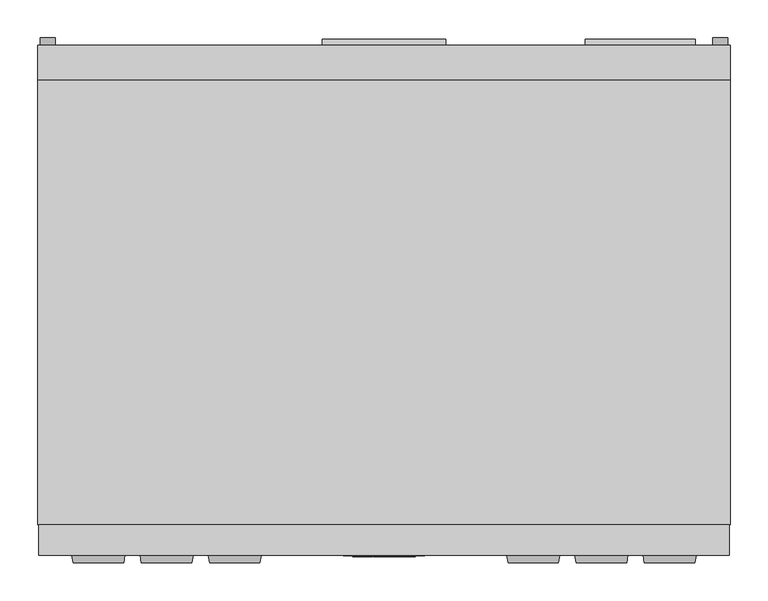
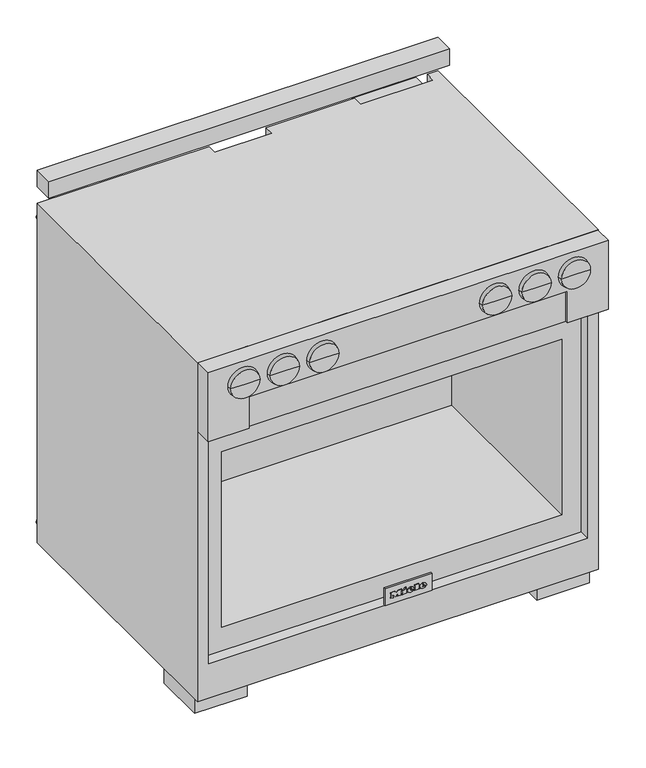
"""IFC4 building model written with IfcOpenShell, lengths in millimetres: proxy geometry, 11791570_USA_HR1934-3G_EDST-CLST : 25193481_USA_11791570_HR1934-3G_EDST-CLST."""

from ifc_helpers import new_model, si_unit, point, frame, frame_2d, origin, origin_with_axes, place, context, project, spatial, polyline, circle_curve, ellipse_curve, trimmed, segment, composite_curve, outline, extrude, faceted_brep, source, transform, mapped, element, save
from ifc_brep_helpers import plane_surface, cylinder_surface, revolved_surface, extruded_surface, advanced_brep


def specialty_equipment_75fcdb14(model_context):
    return source(origin(), model_context, "Body", "SolidModel", [
        faceted_brep([(456.0, -673.0, 862.0), (-456.0, -673.0, 862.0), (-456.0, -673.0, 695.0), (-363.0, -673.0, 695.0), (-363.0, -673.0, 772.0), (363.0, -673.0, 772.0), (363.0, -673.0, 695.0), (456.0, -673.0, 695.0), (456.0, -633.0, 862.0), (456.0, -633.0, 695.0), (-456.0, -633.0, 695.0), (-456.0, -633.0, 862.0), (363.0, -666.7, 695.0), (-363.0, -666.7, 695.0), (363.0, -666.7, 772.0), (-363.0, -666.7, 772.0)], [[[0, 1, 2, 3, 4, 5, 6, 7]], [[8, 9, 10, 11]], [[0, 7, 9, 8]], [[10, 9, 7, 6, 12, 13, 3, 2]], [[2, 1, 11, 10]], [[1, 0, 8, 11]], [[14, 15, 13, 12]], [[14, 12, 6, 5]], [[13, 15, 4, 3]], [[15, 14, 5, 4]]]),
        advanced_brep(
        [(-230.2367302, -683.0, 813.0), (-163.7632698, -683.0, 813.0), (-197.0, -683.0, 813.0), (-232.0, -673.0, 813.0), (-162.0, -673.0, 813.0), (-197.0, -673.0, 813.0)],
        [
            (0, 1, circle_curve(frame((-197.0, -683.0, 813.0), z_axis=(0.0, -1.0, 0.0), x_axis=(1.0, 0.0, 0.0)), 33.2367302)),
            (1, 2),
            (2, 0),
            (1, 0, circle_curve(frame((-197.0, -683.0, 813.0), z_axis=(0.0, -1.0, 0.0), x_axis=(1.0, 0.0, 0.0)), 33.2367302)),
            (3, 4, circle_curve(frame((-197.0, -673.0, 813.0), z_axis=(0.0, -1.0, 0.0), x_axis=(1.0, 0.0, 0.0)), 35.0)),
            (4, 1),
            (0, 3),
            (4, 3, circle_curve(frame((-197.0, -673.0, 813.0), z_axis=(0.0, -1.0, 0.0), x_axis=(1.0, 0.0, 0.0)), 35.0)),
            (5, 4),
            (3, 5),
        ],
        [
            plane_surface(frame((-197.0, -683.0, 813.0), z_axis=(0.0, -1.0, 0.0), x_axis=(1.0, 0.0, 0.0))),
            revolved_surface(polyline([(-163.7632698, -683.0, 813.0), (-162.0, -673.0, 813.0)]), (-197.0, 751.3738435, 813.0), (0.0, 1.0, 0.0)),
            plane_surface(frame((-197.0, -673.0, 813.0), z_axis=(0.0, 1.0, 0.0), x_axis=(1.0, 0.0, 0.0))),
        ],
        [
            (0, [[1, 2, 3]]),
            (0, [[4, -3, -2]]),
            (1, [[5, 6, -1, 7]]),
            (1, [[8, -7, -4, -6]]),
            (2, [[9, -5, 10]]),
            (2, [[-10, -8, -9]]),
        ],
    ),
        advanced_brep(
        [(-410.2367302, -683.0, 813.0), (-343.7632698, -683.0, 813.0), (-377.0, -683.0, 813.0), (-412.0, -673.0, 813.0), (-342.0, -673.0, 813.0), (-377.0, -673.0, 813.0)],
        [
            (0, 1, circle_curve(frame((-377.0, -683.0, 813.0), z_axis=(0.0, -1.0, 0.0), x_axis=(1.0, 0.0, 0.0)), 33.2367302)),
            (1, 2),
            (2, 0),
            (1, 0, circle_curve(frame((-377.0, -683.0, 813.0), z_axis=(0.0, -1.0, 0.0), x_axis=(1.0, 0.0, 0.0)), 33.2367302)),
            (3, 4, circle_curve(frame((-377.0, -673.0, 813.0), z_axis=(0.0, -1.0, 0.0), x_axis=(1.0, 0.0, 0.0)), 35.0)),
            (4, 1),
            (0, 3),
            (4, 3, circle_curve(frame((-377.0, -673.0, 813.0), z_axis=(0.0, -1.0, 0.0), x_axis=(1.0, 0.0, 0.0)), 35.0)),
            (5, 4),
            (3, 5),
        ],
        [
            plane_surface(frame((-377.0, -683.0, 813.0), z_axis=(0.0, -1.0, 0.0), x_axis=(1.0, 0.0, 0.0))),
            revolved_surface(polyline([(-343.7632698, -683.0, 813.0), (-342.0, -673.0, 813.0)]), (-377.0, 751.3738435, 813.0), (0.0, 1.0, 0.0)),
            plane_surface(frame((-377.0, -673.0, 813.0), z_axis=(0.0, 1.0, 0.0), x_axis=(1.0, 0.0, 0.0))),
        ],
        [
            (0, [[1, 2, 3]]),
            (0, [[4, -3, -2]]),
            (1, [[5, 6, -1, 7]]),
            (1, [[8, -7, -4, -6]]),
            (2, [[9, -5, 10]]),
            (2, [[-10, -8, -9]]),
        ],
    ),
        advanced_brep(
        [(-320.2367302, -683.0, 813.0), (-253.7632698, -683.0, 813.0), (-287.0, -683.0, 813.0), (-322.0, -673.0, 813.0), (-252.0, -673.0, 813.0), (-287.0, -673.0, 813.0)],
        [
            (0, 1, circle_curve(frame((-287.0, -683.0, 813.0), z_axis=(0.0, -1.0, 0.0), x_axis=(1.0, 0.0, 0.0)), 33.2367302)),
            (1, 2),
            (2, 0),
            (1, 0, circle_curve(frame((-287.0, -683.0, 813.0), z_axis=(0.0, -1.0, 0.0), x_axis=(1.0, 0.0, 0.0)), 33.2367302)),
            (3, 4, circle_curve(frame((-287.0, -673.0, 813.0), z_axis=(0.0, -1.0, 0.0), x_axis=(1.0, 0.0, 0.0)), 35.0)),
            (4, 1),
            (0, 3),
            (4, 3, circle_curve(frame((-287.0, -673.0, 813.0), z_axis=(0.0, -1.0, 0.0), x_axis=(1.0, 0.0, 0.0)), 35.0)),
            (5, 4),
            (3, 5),
        ],
        [
            plane_surface(frame((-287.0, -683.0, 813.0), z_axis=(0.0, -1.0, 0.0), x_axis=(1.0, 0.0, 0.0))),
            revolved_surface(polyline([(-253.7632698, -683.0, 813.0), (-252.0, -673.0, 813.0)]), (-287.0, 751.3738435, 813.0), (0.0, 1.0, 0.0)),
            plane_surface(frame((-287.0, -673.0, 813.0), z_axis=(0.0, 1.0, 0.0), x_axis=(1.0, 0.0, 0.0))),
        ],
        [
            (0, [[1, 2, 3]]),
            (0, [[4, -3, -2]]),
            (1, [[5, 6, -1, 7]]),
            (1, [[8, -7, -4, -6]]),
            (2, [[9, -5, 10]]),
            (2, [[-10, -8, -9]]),
        ],
    ),
        advanced_brep(
        [(163.7632698, -683.0, 813.0), (230.2367302, -683.0, 813.0), (197.0, -683.0, 813.0), (162.0, -673.0, 813.0), (232.0, -673.0, 813.0), (197.0, -673.0, 813.0)],
        [
            (0, 1, circle_curve(frame((197.0, -683.0, 813.0), z_axis=(0.0, -1.0, 0.0), x_axis=(1.0, 0.0, 0.0)), 33.2367302)),
            (1, 2),
            (2, 0),
            (1, 0, circle_curve(frame((197.0, -683.0, 813.0), z_axis=(0.0, -1.0, 0.0), x_axis=(1.0, 0.0, 0.0)), 33.2367302)),
            (3, 4, circle_curve(frame((197.0, -673.0, 813.0), z_axis=(0.0, -1.0, 0.0), x_axis=(1.0, 0.0, 0.0)), 35.0)),
            (4, 1),
            (0, 3),
            (4, 3, circle_curve(frame((197.0, -673.0, 813.0), z_axis=(0.0, -1.0, 0.0), x_axis=(1.0, 0.0, 0.0)), 35.0)),
            (5, 4),
            (3, 5),
        ],
        [
            plane_surface(frame((197.0, -683.0, 813.0), z_axis=(0.0, -1.0, 0.0), x_axis=(1.0, 0.0, 0.0))),
            revolved_surface(polyline([(230.2367302, -683.0, 813.0), (232.0, -673.0, 813.0)]), (197.0, 751.3738435, 813.0), (0.0, 1.0, 0.0)),
            plane_surface(frame((197.0, -673.0, 813.0), z_axis=(0.0, 1.0, 0.0), x_axis=(1.0, 0.0, 0.0))),
        ],
        [
            (0, [[1, 2, 3]]),
            (0, [[4, -3, -2]]),
            (1, [[5, 6, -1, 7]]),
            (1, [[8, -7, -4, -6]]),
            (2, [[9, -5, 10]]),
            (2, [[-10, -8, -9]]),
        ],
    ),
        advanced_brep(
        [(253.7632698, -683.0, 813.0), (320.2367302, -683.0, 813.0), (287.0, -683.0, 813.0), (252.0, -673.0, 813.0), (322.0, -673.0, 813.0), (287.0, -673.0, 813.0)],
        [
            (0, 1, circle_curve(frame((287.0, -683.0, 813.0), z_axis=(0.0, -1.0, 0.0), x_axis=(1.0, 0.0, 0.0)), 33.2367302)),
            (1, 2),
            (2, 0),
            (1, 0, circle_curve(frame((287.0, -683.0, 813.0), z_axis=(0.0, -1.0, 0.0), x_axis=(1.0, 0.0, 0.0)), 33.2367302)),
            (3, 4, circle_curve(frame((287.0, -673.0, 813.0), z_axis=(0.0, -1.0, 0.0), x_axis=(1.0, 0.0, 0.0)), 35.0)),
            (4, 1),
            (0, 3),
            (4, 3, circle_curve(frame((287.0, -673.0, 813.0), z_axis=(0.0, -1.0, 0.0), x_axis=(1.0, 0.0, 0.0)), 35.0)),
            (5, 4),
            (3, 5),
        ],
        [
            plane_surface(frame((287.0, -683.0, 813.0), z_axis=(0.0, -1.0, 0.0), x_axis=(1.0, 0.0, 0.0))),
            revolved_surface(polyline([(320.2367302, -683.0, 813.0), (322.0, -673.0, 813.0)]), (287.0, 751.3738435, 813.0), (0.0, 1.0, 0.0)),
            plane_surface(frame((287.0, -673.0, 813.0), z_axis=(0.0, 1.0, 0.0), x_axis=(1.0, 0.0, 0.0))),
        ],
        [
            (0, [[1, 2, 3]]),
            (0, [[4, -3, -2]]),
            (1, [[5, 6, -1, 7]]),
            (1, [[8, -7, -4, -6]]),
            (2, [[9, -5, 10]]),
            (2, [[-10, -8, -9]]),
        ],
    ),
        advanced_brep(
        [(343.7632698, -683.0, 813.0), (410.2367302, -683.0, 813.0), (377.0, -683.0, 813.0), (342.0, -673.0, 813.0), (412.0, -673.0, 813.0), (377.0, -673.0, 813.0)],
        [
            (0, 1, circle_curve(frame((377.0, -683.0, 813.0), z_axis=(0.0, -1.0, 0.0), x_axis=(1.0, 0.0, 0.0)), 33.2367302)),
            (1, 2),
            (2, 0),
            (1, 0, circle_curve(frame((377.0, -683.0, 813.0), z_axis=(0.0, -1.0, 0.0), x_axis=(1.0, 0.0, 0.0)), 33.2367302)),
            (3, 4, circle_curve(frame((377.0, -673.0, 813.0), z_axis=(0.0, -1.0, 0.0), x_axis=(1.0, 0.0, 0.0)), 35.0)),
            (4, 1),
            (0, 3),
            (4, 3, circle_curve(frame((377.0, -673.0, 813.0), z_axis=(0.0, -1.0, 0.0), x_axis=(1.0, 0.0, 0.0)), 35.0)),
            (5, 4),
            (3, 5),
        ],
        [
            plane_surface(frame((377.0, -683.0, 813.0), z_axis=(0.0, -1.0, 0.0), x_axis=(1.0, 0.0, 0.0))),
            revolved_surface(polyline([(410.2367302, -683.0, 813.0), (412.0, -673.0, 813.0)]), (377.0, 751.3738435, 813.0), (0.0, 1.0, 0.0)),
            plane_surface(frame((377.0, -673.0, 813.0), z_axis=(0.0, 1.0, 0.0), x_axis=(1.0, 0.0, 0.0))),
        ],
        [
            (0, [[1, 2, 3]]),
            (0, [[4, -3, -2]]),
            (1, [[5, 6, -1, 7]]),
            (1, [[8, -7, -4, -6]]),
            (2, [[9, -5, 10]]),
            (2, [[-10, -8, -9]]),
        ],
    ),
        extrude(outline(composite_curve([segment(trimmed(circle_curve(frame_2d((822.0, 444.0)), 10.0), [point((822.0, 454.0))], [point((822.0, 434.0))], False, "CARTESIAN"), True, "CONTINUOUS"), segment(trimmed(circle_curve(frame_2d((822.0, 444.0)), 10.0), [point((822.0, 434.0))], [point((822.0, 454.0))], False, "CARTESIAN"), True, "CONTINUOUS")], self_intersect=False)), frame((0.0, 0.0, 0.0), z_axis=(0.0, 1.0, 0.0), x_axis=(0.0, 0.0, 1.0)), (0.0, 0.0, 1.0), 10.0),
        extrude(outline(composite_curve([segment(trimmed(circle_curve(frame_2d((87.0, 444.0)), 10.0), [point((87.0, 454.0))], [point((87.0, 434.0))], False, "CARTESIAN"), True, "CONTINUOUS"), segment(trimmed(circle_curve(frame_2d((87.0, 444.0)), 10.0), [point((87.0, 434.0))], [point((87.0, 454.0))], False, "CARTESIAN"), True, "CONTINUOUS")], self_intersect=False)), frame((0.0, 0.0, 0.0), z_axis=(0.0, 1.0, 0.0), x_axis=(0.0, 0.0, 1.0)), (0.0, 0.0, 1.0), 10.0),
        extrude(outline(composite_curve([segment(trimmed(circle_curve(frame_2d((822.0, -444.0)), 10.0), [point((822.0, -434.0))], [point((822.0, -454.0))], False, "CARTESIAN"), True, "CONTINUOUS"), segment(trimmed(circle_curve(frame_2d((822.0, -444.0)), 10.0), [point((822.0, -454.0))], [point((822.0, -434.0))], False, "CARTESIAN"), True, "CONTINUOUS")], self_intersect=False)), frame((0.0, 0.0, 0.0), z_axis=(0.0, 1.0, 0.0), x_axis=(0.0, 0.0, 1.0)), (0.0, 0.0, 1.0), 10.0),
        extrude(outline(composite_curve([segment(trimmed(circle_curve(frame_2d((87.0, -444.0)), 10.0), [point((87.0, -434.0))], [point((87.0, -454.0))], False, "CARTESIAN"), True, "CONTINUOUS"), segment(trimmed(circle_curve(frame_2d((87.0, -444.0)), 10.0), [point((87.0, -454.0))], [point((87.0, -434.0))], False, "CARTESIAN"), True, "CONTINUOUS")], self_intersect=False)), frame((0.0, 0.0, 0.0), z_axis=(0.0, 1.0, 0.0), x_axis=(0.0, 0.0, 1.0)), (0.0, 0.0, 1.0), 10.0),
        extrude(outline(polyline([(-258.0, 0.0), (170.0, 0.0), (170.0, -39.0), (-258.0, -39.0), (-258.0, 0.0)])), frame((0.0, 0.0, 117.0), z_axis=(0.0, 0.0, 1.0), x_axis=(1.0, 0.0, 0.0)), (0.0, 0.0, 1.0), 15.0),
        extrude(outline(polyline([(284.0, -23.0), (405.0, -23.0), (405.0, -53.0), (284.0, -53.0), (284.0, -23.0)])), frame((0.0, 0.0, 117.0), z_axis=(0.0, 0.0, 1.0), x_axis=(1.0, 0.0, 0.0)), (0.0, 0.0, 1.0), 15.0),
        extrude(outline(polyline([(266.0, 8.0), (411.0, 8.0), (411.0, -23.0), (266.0, -23.0), (266.0, 8.0)])), frame((0.0, 0.0, 742.0), z_axis=(0.0, 0.0, 1.0), x_axis=(1.0, 0.0, 0.0)), (0.0, 0.0, 1.0), 115.0),
        extrude(outline(polyline([(-81.5, 8.0), (81.5, 8.0), (81.5, 0.0), (-81.5, 0.0), (-81.5, 8.0)])), frame((0.0, 0.0, 559.0), z_axis=(0.0, 0.0, 1.0), x_axis=(1.0, 0.0, 0.0)), (0.0, 0.0, 1.0), 237.0),
        extrude(outline(composite_curve([segment(trimmed(circle_curve(frame_2d((-152.0, 39.6862697)), 39.6862697), [point((-112.6710759, 45.0))], [point((-191.3289241, 45.0))], False, "CARTESIAN"), True, "CONTINUOUS"), segment(polyline([(-191.3289241, 45.0), (-112.6710759, 45.0)]), True, "CONTINUOUS")], self_intersect=False)), frame((282.0, 0.0, 0.0), z_axis=(1.0, 0.0, 0.0), x_axis=(0.0, 1.0, 0.0)), (0.0, 0.0, 1.0), 28.0),
        extrude(outline(composite_curve([segment(polyline([(-366.0009008, -40.0), (-367.2635363, -40.0), (-367.0191787, -38.9415709), (-366.8778726, -34.1117735)]), True, "CONTINUOUS"), segment(trimmed(circle_curve(frame_2d((-365.387549, -34.1553762)), 1.4909613), [point((-366.8778726, -34.1117735))], [point((-365.6381402, -32.6856246))], False, "CARTESIAN"), True, "CONTINUOUS"), segment(trimmed(circle_curve(frame_2d((-364.1175682, -37.7832301)), 5.3195602), [point((-365.6381402, -32.6856246))], [point((-362.440667, -32.7348914))], False, "CARTESIAN"), True, "CONTINUOUS"), segment(polyline([(-362.440667, -32.7348914), (-361.3643767, -33.4338425), (-360.8177226, -34.6616478), (-362.0710839, -34.8155412), (-362.6628147, -33.9704619)]), True, "CONTINUOUS"), segment(trimmed(circle_curve(frame_2d((-363.889909, -36.6278559)), 2.9270297), [point((-362.6628147, -33.9704619))], [point((-365.335883, -34.0829271))], True, "CARTESIAN"), True, "CONTINUOUS"), segment(polyline([(-365.335883, -34.0829271), (-365.6819155, -35.289686), (-362.4250607, -35.9227545)]), True, "CONTINUOUS"), segment(trimmed(circle_curve(frame_2d((-362.8373847, -38.0439776)), 2.1609254), [point((-362.4250607, -35.9227545))], [point((-361.2872437, -39.5495212))], False, "CARTESIAN"), True, "CONTINUOUS"), segment(trimmed(circle_curve(frame_2d((-363.2230106, -36.6941434)), 3.4496922), [point((-361.2872437, -39.5495212))], [point((-364.4810512, -39.9062626))], False, "CARTESIAN"), True, "CONTINUOUS"), segment(polyline([(-364.4810512, -39.9062626), (-365.6943945, -39.0566705), (-366.0009008, -40.0)]), True, "CONTINUOUS")], self_intersect=False), holes=[composite_curve([segment(polyline([(-365.6808047, -36.7241112), (-365.4778117, -37.8753414), (-364.6808418, -38.5929363), (-363.3846505, -38.8921857)]), True, "CONTINUOUS"), segment(trimmed(circle_curve(frame_2d((-363.1641539, -37.9371101)), 0.980198), [point((-363.3846505, -38.8921857))], [point((-362.5826105, -37.148063))], True, "CARTESIAN"), True, "CONTINUOUS"), segment(polyline([(-362.5826105, -37.148063), (-363.683896, -36.9339948), (-365.6808047, -36.7241112)]), True, "CONTINUOUS")], self_intersect=False)]), frame((0.0, 0.0, 753.0), z_axis=(0.0, 0.0, 1.0), x_axis=(1.0, 0.0, 0.0)), (0.0, 0.0, 1.0), 1.0),
        extrude(outline(composite_curve([segment(polyline([(-369.4581842, -37.6489066), (-368.202206, -37.8031213), (-369.1593436, -39.5606642)]), True, "CONTINUOUS"), segment(trimmed(circle_curve(frame_2d((-371.3057471, -36.6354063)), 3.6282478), [point((-369.1593436, -39.5606642))], [point((-372.8962663, -39.8964538))], False, "CARTESIAN"), True, "CONTINUOUS"), segment(trimmed(circle_curve(frame_2d((-371.7731504, -37.593725)), 2.5620205), [point((-372.8962663, -39.8964538))], [point((-374.32893, -37.7724425))], False, "CARTESIAN"), True, "CONTINUOUS"), segment(trimmed(circle_curve(frame_2d((-372.617737, -37.6527843)), 1.7153715), [point((-374.32893, -37.7724425))], [point((-373.147816, -36.021369))], False, "CARTESIAN"), True, "CONTINUOUS"), segment(polyline([(-373.147816, -36.021369), (-371.3069947, -35.4232499), (-369.987673, -33.9770867)]), True, "CONTINUOUS"), segment(trimmed(circle_curve(frame_2d((-371.1408399, -36.351197)), 2.6393548), [point((-369.987673, -33.9770867))], [point((-372.2940069, -33.9770867))], True, "CARTESIAN"), True, "CONTINUOUS"), segment(polyline([(-372.2940069, -33.9770867), (-372.7553884, -34.6611129), (-374.0084996, -34.5072502), (-373.5756304, -33.3795875)]), True, "CONTINUOUS"), segment(trimmed(circle_curve(frame_2d((-370.9527143, -36.6576461)), 4.1982564), [point((-373.5756304, -33.3795875))], [point((-371.0505395, -32.4605295))], False, "CARTESIAN"), True, "CONTINUOUS"), segment(trimmed(circle_curve(frame_2d((-370.9805679, -35.4626064)), 3.0028922), [point((-371.0505395, -32.4605295))], [point((-368.5718203, -33.6694816))], False, "CARTESIAN"), True, "CONTINUOUS"), segment(trimmed(circle_curve(frame_2d((-370.4380028, -34.5301363)), 2.0550823), [point((-368.5718203, -33.6694816))], [point((-369.4341096, -36.323335))], False, "CARTESIAN"), True, "CONTINUOUS"), segment(polyline([(-369.4341096, -36.323335), (-371.3494535, -36.9828408), (-373.0597255, -37.9076387), (-372.6768706, -38.6156702)]), True, "CONTINUOUS"), segment(trimmed(circle_curve(frame_2d((-371.3695779, -35.6018954)), 3.2850956), [point((-372.6768706, -38.6156702))], [point((-370.0622852, -38.6156702))], True, "CARTESIAN"), True, "CONTINUOUS"), segment(polyline([(-370.0622852, -38.6156702), (-369.4581842, -37.6489066)]), True, "CONTINUOUS")], self_intersect=False)), frame((0.0, 0.0, 753.0), z_axis=(0.0, 0.0, 1.0), x_axis=(1.0, 0.0, 0.0)), (0.0, 0.0, 1.0), 1.0),
        extrude(outline(composite_curve([segment(polyline([(-359.0941465, -34.8216074), (-355.0193946, -34.8216074), (-355.0193946, -36.0727848), (-357.8300756, -36.0727848), (-357.8300756, -37.8953779), (-356.5547934, -38.5734575), (-354.8554891, -38.8730907)]), True, "CONTINUOUS"), segment(trimmed(circle_curve(frame_2d((-354.7763582, -35.1835188)), 3.6904203), [point((-354.8554891, -38.8730907))], [point((-351.0917956, -34.975672))], True, "CARTESIAN"), True, "CONTINUOUS"), segment(trimmed(circle_curve(frame_2d((-355.2742118, -35.2116028)), 4.1890654), [point((-351.0917956, -34.975672))], [point((-354.8924604, -31.0399683))], True, "CARTESIAN"), True, "CONTINUOUS"), segment(trimmed(circle_curve(frame_2d((-355.1434541, -33.7827322)), 2.7542243), [point((-354.8924604, -31.0399683))], [point((-357.2311401, -31.9862582))], True, "CARTESIAN"), True, "CONTINUOUS"), segment(polyline([(-357.2311401, -31.9862582), (-357.7913432, -33.1348449), (-358.9545959, -32.808521), (-358.2222817, -31.1459412)]), True, "CONTINUOUS"), segment(trimmed(circle_curve(frame_2d((-355.0056573, -34.3038983)), 4.5077007), [point((-358.2222817, -31.1459412))], [point((-354.8478593, -29.7989604))], False, "CARTESIAN"), True, "CONTINUOUS"), segment(trimmed(circle_curve(frame_2d((-355.0297107, -35.0029797)), 5.2071956), [point((-354.8478593, -29.7989604))], [point((-349.8225151, -35.0029797))], False, "CARTESIAN"), True, "CONTINUOUS"), segment(trimmed(circle_curve(frame_2d((-355.0187023, -34.9634409)), 5.1963376), [point((-349.8225151, -35.0029797))], [point((-355.0187023, -40.1597785))], False, "CARTESIAN"), True, "CONTINUOUS"), segment(polyline([(-355.0187023, -40.1597785), (-357.0821579, -39.7823822), (-359.0941465, -38.5734575), (-359.0941465, -34.8216074)]), True, "CONTINUOUS")], self_intersect=False)), frame((0.0, 0.0, 753.0), z_axis=(0.0, 0.0, 1.0), x_axis=(1.0, 0.0, 0.0)), (0.0, 0.0, 1.0), 1.0),
        extrude(outline(polyline([(246.4261097, -48.2846028), (239.1553153, -48.2846028), (239.1553153, -47.0259878), (245.1324687, -47.0259878), (245.1324687, -44.0398896), (239.4699511, -44.0398896), (239.4699511, -42.7868997), (245.1324687, -42.7868997), (245.1324687, -39.484481), (239.0234692, -39.484481), (239.0234692, -38.223126), (246.4261097, -38.223126), (246.4261097, -48.2846028)])), frame((0.0, 0.0, 101.0), z_axis=(0.0, 0.0, 1.0), x_axis=(1.0, 0.0, 0.0)), (0.0, 0.0, 1.0), 1.0),
        extrude(outline(polyline([(237.0939455, -48.2781045), (230.9083542, -48.2781045), (230.9083542, -47.0259878), (235.9083542, -47.0259878), (235.9083542, -38.223126), (237.0939455, -38.223126), (237.0939455, -48.2781045)])), frame((0.0, 0.0, 101.0), z_axis=(0.0, 0.0, 1.0), x_axis=(1.0, 0.0, 0.0)), (0.0, 0.0, 1.0), 1.0),
        extrude(outline(composite_curve([segment(trimmed(circle_curve(frame_2d((239.0, -44.0)), 7.5), [point((239.0, -51.5))], [point((239.0, -36.5))], False, "CARTESIAN"), True, "CONTINUOUS"), segment(trimmed(circle_curve(frame_2d((239.0, -44.0)), 7.5), [point((239.0, -36.5))], [point((239.0, -51.5))], False, "CARTESIAN"), True, "CONTINUOUS")], self_intersect=False)), frame((0.0, 0.0, 102.0), z_axis=(0.0, 0.0, 1.0), x_axis=(1.0, 0.0, 0.0)), (0.0, 0.0, 1.0), 30.0),
        extrude(outline(composite_curve([segment(trimmed(circle_curve(frame_2d((-362.0, -35.0)), 7.5), [point((-369.5, -35.0))], [point((-354.5, -35.0))], False, "CARTESIAN"), True, "CONTINUOUS"), segment(trimmed(circle_curve(frame_2d((-362.0, -35.0)), 7.5), [point((-354.5, -35.0))], [point((-369.5, -35.0))], False, "CARTESIAN"), True, "CONTINUOUS")], self_intersect=False)), frame((0.0, 0.0, 754.0), z_axis=(0.0, 0.0, 1.0), x_axis=(1.0, 0.0, 0.0)), (0.0, 0.0, 1.0), 30.0),
        extrude(outline(polyline([(742.9900117, -299.5376107), (753.0405487, -296.8032463), (753.0405487, -298.1010309), (744.3952189, -300.1941056), (753.0411296, -302.6946617), (753.0411296, -304.5615338), (744.4117226, -307.0845612), (753.0419182, -309.165026), (753.0419182, -310.4626989), (742.9984871, -307.7244126), (742.9984871, -306.3735976), (751.8308623, -303.6286268), (742.9900117, -301.0716905), (742.9900117, -299.5376107)])), frame((0.0, -36.0, 0.0), z_axis=(0.0, 1.0, 0.0), x_axis=(0.0, 0.0, 1.0)), (0.0, 0.0, 1.0), 1.0),
        extrude(outline(polyline([(743.0, -288.4829639), (753.0509015, -288.4829639), (753.0509015, -289.7409127), (748.1386151, -289.7409127), (753.0475587, -294.8904554), (753.0475587, -296.6455728), (748.9164775, -292.3179994), (743.0, -296.8019347), (743.0, -295.2701694), (748.0664133, -291.4304743), (746.4465471, -289.7392234), (743.0, -289.7392234), (743.0, -288.4829639)])), frame((0.0, -36.0, 0.0), z_axis=(0.0, 1.0, 0.0), x_axis=(0.0, 0.0, 1.0)), (0.0, 0.0, 1.0), 1.0),
        extrude(outline(composite_curve([segment(trimmed(circle_curve(frame_2d((748.0, -299.0)), 7.5), [point((748.0, -291.5))], [point((748.0, -306.5))], False, "CARTESIAN"), True, "CONTINUOUS"), segment(trimmed(circle_curve(frame_2d((748.0, -299.0)), 7.5), [point((748.0, -306.5))], [point((748.0, -291.5))], False, "CARTESIAN"), True, "CONTINUOUS")], self_intersect=False)), frame((0.0, -66.0, 0.0), z_axis=(0.0, 1.0, 0.0), x_axis=(0.0, 0.0, 1.0)), (0.0, 0.0, 1.0), 30.0),
        faceted_brep([(-457.0, 0.0, 862.0), (-457.0, -633.0, 862.0), (457.0, -633.0, 862.0), (457.0, 0.0, 862.0), (432.0, 0.0, 862.0), (432.0, -23.0, 862.0), (266.0, -23.0, 862.0), (266.0, 0.0, 862.0), (65.0, 0.0, 862.0), (65.0, -23.0, 862.0), (-66.0, -23.0, 862.0), (-66.0, 0.0, 862.0), (457.0, 0.0, 45.0), (457.0, -633.0, 45.0), (-457.0, -633.0, 45.0), (-457.0, 0.0, 45.0), (-432.0, 0.0, 45.0), (-432.0, -75.0, 45.0), (432.0, -75.0, 45.0), (432.0, 0.0, 45.0), (266.0, 0.0, 132.0), (65.0, 0.0, 132.0), (-66.0, 0.0, 132.0), (-270.0, 0.0, 132.0), (-270.0, 0.0, 784.0), (-411.0, 0.0, 784.0), (-411.0, 0.0, 132.0), (-432.0, 0.0, 132.0), (432.0, -633.0, 695.0), (432.0, -633.0, 128.0), (-432.0, -633.0, 128.0), (-432.0, -633.0, 695.0), (432.0, -608.0, 695.0), (-432.0, -608.0, 695.0), (-432.0, -608.0, 128.0), (432.0, -608.0, 128.0), (388.0, -608.0, 608.0), (388.0, -608.0, 185.0), (-388.0, -608.0, 185.0), (-388.0, -608.0, 608.0), (388.0, -173.0, 608.0), (-388.0, -173.0, 608.0), (-388.0, -173.0, 185.0), (388.0, -173.0, 185.0), (432.0, -23.0, 132.0), (266.0, -23.0, 132.0), (65.0, -23.0, 132.0), (-66.0, -23.0, 132.0), (432.0, -75.0, 132.0), (-411.0, -69.0, 784.0), (-270.0, -69.0, 784.0), (-270.0, -69.0, 132.0), (-411.0, -69.0, 132.0), (-432.0, -75.0, 132.0)], [[[0, 1, 2, 3, 4, 5, 6, 7, 8, 9, 10, 11]], [[12, 13, 14, 15, 16, 17, 18, 19]], [[8, 7, 20, 21]], [[3, 12, 19, 4]], [[15, 0, 11, 22, 23, 24, 25, 26, 27, 16]], [[1, 0, 15, 14]], [[2, 1, 14, 13], [28, 29, 30, 31]], [[3, 2, 13, 12]], [[32, 33, 34, 35], [36, 37, 38, 39]], [[32, 35, 29, 28]], [[35, 34, 30, 29]], [[34, 33, 31, 30]], [[33, 32, 28, 31]], [[40, 41, 42, 43]], [[40, 43, 37, 36]], [[43, 42, 38, 37]], [[42, 41, 39, 38]], [[41, 40, 36, 39]], [[6, 5, 44, 45]], [[10, 9, 46, 47]], [[9, 8, 21, 46]], [[11, 10, 47, 22]], [[5, 4, 19, 18, 48, 44]], [[7, 6, 45, 20]], [[49, 50, 51, 52]], [[50, 49, 25, 24]], [[50, 24, 23, 51]], [[25, 49, 52, 26]], [[53, 48, 18, 17]], [[27, 53, 17, 16]], [[48, 53, 27, 26, 52, 51, 23, 22, 47, 46, 21, 20, 45, 44]]]),
        extrude(outline(composite_curve([segment(trimmed(circle_curve(frame_2d((-152.0, 39.6862697)), 39.6862697), [point((-112.6710759, 45.0))], [point((-191.3289241, 45.0))], False, "CARTESIAN"), True, "CONTINUOUS"), segment(polyline([(-191.3289241, 45.0), (-112.6710759, 45.0)]), True, "CONTINUOUS")], self_intersect=False)), frame((-310.0, 0.0, 0.0), z_axis=(1.0, 0.0, 0.0), x_axis=(0.0, 1.0, 0.0)), (0.0, 0.0, 1.0), 28.0),
        extrude(outline(polyline([(-330.0, -489.0), (-330.0, -609.0), (-450.0, -609.0), (-450.0, -489.0), (-330.0, -489.0)])), origin_with_axes(), (0.0, 0.0, 1.0), 45.0),
        extrude(outline(polyline([(450.0, -489.0), (450.0, -609.0), (330.0, -609.0), (330.0, -489.0), (450.0, -489.0)])), origin_with_axes(), (0.0, 0.0, 1.0), 45.0),
        advanced_brep(
        [(32.17, -675.0, 177.1995), (32.17, -675.0, 178.563), (41.2015, -675.0, 178.563), (25.4875, -675.0, 178.563), (29.2, -675.0, 174.0), (40.972, -675.0, 177.1995), (36.895, -675.0, 177.1995), (33.682, -675.0, 175.6875), (32.17, -675.0, 180.291), (32.17, -675.0, 181.7625), (34.4785, -675.0, 181.7625), (34.4785, -675.0, 180.291), (32.17, -674.0, 177.1995), (33.682, -674.0, 175.6875), (36.895, -674.0, 177.1995), (40.972, -674.0, 177.1995), (29.2, -674.0, 174.0), (25.4875, -674.0, 178.563), (41.2015, -674.0, 178.563), (32.17, -674.0, 178.563), (32.17, -674.0, 180.291), (34.4785, -674.0, 180.291), (34.4785, -674.0, 181.7625), (32.17, -674.0, 181.7625)],
        [
            (0, 1),
            (1, 2),
            (2, 3, ellipse_curve(frame((33.3445, -675.0, 178.563), z_axis=(0.0, -1.0, 0.0), x_axis=(-1.0, 0.0, 0.0)), 7.857, 6.4935)),
            (3, 4, circle_curve(frame((30.7120736, -675.0, 179.022), z_axis=(0.0, -1.0, 0.0), x_axis=(0.0, 0.0, -1.0)), 5.2446974)),
            (4, 5, circle_curve(frame((33.1872142, -675.0, 182.586), z_axis=(0.0, -1.0, 0.0), x_axis=(0.0, 0.0, -1.0)), 9.46664)),
            (5, 6),
            (6, 7, circle_curve(frame((34.3419118, -675.0, 178.455), z_axis=(0.0, 1.0, 0.0), x_axis=(0.0, 0.0, -1.0)), 2.8450905)),
            (7, 0, circle_curve(frame((33.682, -675.0, 177.1995), z_axis=(0.0, 1.0, 0.0), x_axis=(0.0, 0.0, -1.0)), 1.512)),
            (8, 9),
            (9, 10, circle_curve(frame((33.32425, -675.0, 181.7625), z_axis=(0.0, 1.0, 0.0), x_axis=(0.0, 0.0, -1.0)), 1.15425)),
            (10, 11),
            (11, 8),
            (12, 13, circle_curve(frame((33.682, -674.0, 177.1995), z_axis=(0.0, -1.0, 0.0), x_axis=(0.0, 0.0, -1.0)), 1.512)),
            (13, 14, circle_curve(frame((34.3419118, -674.0, 178.455), z_axis=(0.0, -1.0, 0.0), x_axis=(0.0, 0.0, -1.0)), 2.8450905)),
            (14, 15),
            (15, 16, circle_curve(frame((33.1872142, -674.0, 182.586), z_axis=(0.0, 1.0, 0.0), x_axis=(0.0, 0.0, -1.0)), 9.46664)),
            (16, 17, circle_curve(frame((30.7120736, -674.0, 179.022), z_axis=(0.0, 1.0, 0.0), x_axis=(0.0, 0.0, -1.0)), 5.2446974)),
            (17, 18, ellipse_curve(frame((33.3445, -674.0, 178.563), z_axis=(0.0, 1.0, 0.0), x_axis=(-1.0, 0.0, 0.0)), 7.857, 6.4935)),
            (18, 19),
            (19, 12),
            (20, 21),
            (21, 22),
            (22, 23, circle_curve(frame((33.32425, -674.0, 181.7625), z_axis=(0.0, -1.0, 0.0), x_axis=(0.0, 0.0, -1.0)), 1.15425)),
            (23, 20),
            (0, 12),
            (19, 1),
            (18, 2),
            (5, 15),
            (14, 6),
            (17, 3),
            (13, 7),
            (16, 4),
            (8, 20),
            (23, 9),
            (22, 10),
            (21, 11),
        ],
        [
            plane_surface(frame((32.17, -675.0, 178.563), z_axis=(0.0, -1.0, 0.0), x_axis=(0.0, 0.0, 1.0))),
            plane_surface(frame((32.17, -674.0, 178.563), z_axis=(0.0, 1.0, 0.0), x_axis=(0.0, 0.0, -1.0))),
            plane_surface(frame((32.17, -675.0, 177.1995), z_axis=(1.0, 0.0, 0.0), x_axis=(0.0, 1.0, 0.0))),
            plane_surface(frame((32.17, -675.0, 178.563), z_axis=(0.0, 0.0, -1.0), x_axis=(0.0, 1.0, 0.0))),
            plane_surface(frame((40.972, -675.0, 177.1995), z_axis=(0.0, 0.0, 1.0), x_axis=(0.0, 1.0, 0.0))),
            extruded_surface(trimmed(ellipse_curve(frame((33.3445, -673.0, 178.563), z_axis=(0.0, -1.0, 0.0), x_axis=(-1.0, 0.0, 0.0)), 7.857, 6.4935), [point((41.2015, -673.0, 178.563))], [point((25.4875, -673.0, 178.563))], True, "CARTESIAN"), (0.0, -1.0, 0.0), 1.0),
            revolved_surface(polyline([(34.3419118, -674.0, 175.60990950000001), (34.3419118, -675.0, 175.60990950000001)]), (34.3419118, -674.0, 178.455), (0.0, 1.0, 0.0)),
            revolved_surface(polyline([(33.682, -674.0, 175.6875), (33.682, -675.0, 175.6875)]), (33.682, -674.0, 177.1995), (0.0, 1.0, 0.0)),
            cylinder_surface(frame((30.7120736, -674.0, 179.022), z_axis=(0.0, -1.0, 0.0), x_axis=(0.0, 0.0, -1.0)), 5.2446974),
            cylinder_surface(frame((33.1872142, -674.0, 182.586), z_axis=(0.0, -1.0, 0.0), x_axis=(0.0, 0.0, -1.0)), 9.46664),
            plane_surface(frame((32.17, -675.0, 180.291), z_axis=(1.0, 0.0, 0.0), x_axis=(0.0, 1.0, 0.0))),
            revolved_surface(polyline([(33.32425, -674.0, 180.60825), (33.32425, -675.0, 180.60825)]), (33.32425, -674.0, 181.7625), (0.0, 1.0, 0.0)),
            plane_surface(frame((34.4785, -675.0, 181.7625), z_axis=(-1.0, 0.0, 0.0), x_axis=(0.0, 1.0, 0.0))),
            plane_surface(frame((34.4785, -675.0, 180.291), z_axis=(0.0, 0.0, 1.0), x_axis=(0.0, 1.0, 0.0))),
        ],
        [
            (0, [[1, 2, 3, 4, 5, 6, 7, 8], [9, 10, 11, 12]]),
            (1, [[13, 14, 15, 16, 17, 18, 19, 20], [21, 22, 23, 24]]),
            (2, [[-1, 25, -20, 26]]),
            (3, [[-2, -26, -19, 27]]),
            (4, [[-6, 28, -15, 29]]),
            (5, [[-3, -27, -18, 30]]),
            (6, [[-7, -29, -14, 31]]),
            (7, [[-8, -31, -13, -25]]),
            (8, [[-4, -30, -17, 32]]),
            (9, [[-5, -32, -16, -28]]),
            (10, [[-9, 33, -24, 34]]),
            (11, [[-10, -34, -23, 35]]),
            (12, [[-11, -35, -22, 36]]),
            (13, [[-12, -36, -21, -33]]),
        ],
    ),
        advanced_brep(
        [(3.9955, -675.0, 177.1995), (3.9955, -675.0, 178.563), (13.027, -675.0, 178.563), (-2.687, -675.0, 178.563), (1.0255, -675.0, 174.0), (12.7975, -675.0, 177.1995), (8.7205, -675.0, 177.1995), (5.5075, -675.0, 175.6875), (3.9955, -675.0, 180.291), (3.9955, -675.0, 181.7625), (6.304, -675.0, 181.7625), (6.304, -675.0, 180.291), (3.9955, -674.0, 177.1995), (5.5075, -674.0, 175.6875), (8.7205, -674.0, 177.1995), (12.7975, -674.0, 177.1995), (1.0255, -674.0, 174.0), (-2.687, -674.0, 178.563), (13.027, -674.0, 178.563), (3.9955, -674.0, 178.563), (3.9955, -674.0, 180.291), (6.304, -674.0, 180.291), (6.304, -674.0, 181.7625), (3.9955, -674.0, 181.7625)],
        [
            (0, 1),
            (1, 2),
            (2, 3, ellipse_curve(frame((5.17, -675.0, 178.563), z_axis=(0.0, -1.0, 0.0), x_axis=(-1.0, 0.0, 0.0)), 7.857, 6.4935)),
            (3, 4, circle_curve(frame((2.5375736, -675.0, 179.022), z_axis=(0.0, -1.0, 0.0), x_axis=(0.0, 0.0, -1.0)), 5.2446974)),
            (4, 5, circle_curve(frame((5.0127142, -675.0, 182.586), z_axis=(0.0, -1.0, 0.0), x_axis=(0.0, 0.0, -1.0)), 9.46664)),
            (5, 6),
            (6, 7, circle_curve(frame((6.1674118, -675.0, 178.455), z_axis=(0.0, 1.0, 0.0), x_axis=(0.0, 0.0, -1.0)), 2.8450905)),
            (7, 0, circle_curve(frame((5.5075, -675.0, 177.1995), z_axis=(0.0, 1.0, 0.0), x_axis=(0.0, 0.0, -1.0)), 1.512)),
            (8, 9),
            (9, 10, circle_curve(frame((5.14975, -675.0, 181.7625), z_axis=(0.0, 1.0, 0.0), x_axis=(0.0, 0.0, -1.0)), 1.15425)),
            (10, 11),
            (11, 8),
            (12, 13, circle_curve(frame((5.5075, -674.0, 177.1995), z_axis=(0.0, -1.0, 0.0), x_axis=(0.0, 0.0, -1.0)), 1.512)),
            (13, 14, circle_curve(frame((6.1674118, -674.0, 178.455), z_axis=(0.0, -1.0, 0.0), x_axis=(0.0, 0.0, -1.0)), 2.8450905)),
            (14, 15),
            (15, 16, circle_curve(frame((5.0127142, -674.0, 182.586), z_axis=(0.0, 1.0, 0.0), x_axis=(0.0, 0.0, -1.0)), 9.46664)),
            (16, 17, circle_curve(frame((2.5375736, -674.0, 179.022), z_axis=(0.0, 1.0, 0.0), x_axis=(0.0, 0.0, -1.0)), 5.2446974)),
            (17, 18, ellipse_curve(frame((5.17, -674.0, 178.563), z_axis=(0.0, 1.0, 0.0), x_axis=(-1.0, 0.0, 0.0)), 7.857, 6.4935)),
            (18, 19),
            (19, 12),
            (20, 21),
            (21, 22),
            (22, 23, circle_curve(frame((5.14975, -674.0, 181.7625), z_axis=(0.0, -1.0, 0.0), x_axis=(0.0, 0.0, -1.0)), 1.15425)),
            (23, 20),
            (0, 12),
            (19, 1),
            (18, 2),
            (5, 15),
            (14, 6),
            (17, 3),
            (13, 7),
            (16, 4),
            (8, 20),
            (23, 9),
            (22, 10),
            (21, 11),
        ],
        [
            plane_surface(frame((3.9955, -675.0, 178.563), z_axis=(0.0, -1.0, 0.0), x_axis=(0.0, 0.0, 1.0))),
            plane_surface(frame((3.9955, -674.0, 178.563), z_axis=(0.0, 1.0, 0.0), x_axis=(0.0, 0.0, -1.0))),
            plane_surface(frame((3.9955, -675.0, 177.1995), z_axis=(1.0, 0.0, 0.0), x_axis=(0.0, 1.0, 0.0))),
            plane_surface(frame((3.9955, -675.0, 178.563), z_axis=(0.0, 0.0, -1.0), x_axis=(0.0, 1.0, 0.0))),
            plane_surface(frame((12.7975, -675.0, 177.1995), z_axis=(0.0, 0.0, 1.0), x_axis=(0.0, 1.0, 0.0))),
            extruded_surface(trimmed(ellipse_curve(frame((5.17, -673.0, 178.563), z_axis=(0.0, -1.0, 0.0), x_axis=(-1.0, 0.0, 0.0)), 7.857, 6.4935), [point((13.027, -673.0, 178.563))], [point((-2.687, -673.0, 178.563))], True, "CARTESIAN"), (0.0, -1.0, 0.0), 1.0),
            revolved_surface(polyline([(6.1674118, -674.0, 175.60990950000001), (6.1674118, -675.0, 175.60990950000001)]), (6.1674118, -674.0, 178.455), (0.0, 1.0, 0.0)),
            revolved_surface(polyline([(5.5075, -674.0, 175.6875), (5.5075, -675.0, 175.6875)]), (5.5075, -674.0, 177.1995), (0.0, 1.0, 0.0)),
            cylinder_surface(frame((2.5375736, -674.0, 179.022), z_axis=(0.0, -1.0, 0.0), x_axis=(0.0, 0.0, -1.0)), 5.2446974),
            cylinder_surface(frame((5.0127142, -674.0, 182.586), z_axis=(0.0, -1.0, 0.0), x_axis=(0.0, 0.0, -1.0)), 9.46664),
            plane_surface(frame((3.9955, -675.0, 180.291), z_axis=(1.0, 0.0, 0.0), x_axis=(0.0, 1.0, 0.0))),
            revolved_surface(polyline([(5.14975, -674.0, 180.60825), (5.14975, -675.0, 180.60825)]), (5.14975, -674.0, 181.7625), (0.0, 1.0, 0.0)),
            plane_surface(frame((6.304, -675.0, 181.7625), z_axis=(-1.0, 0.0, 0.0), x_axis=(0.0, 1.0, 0.0))),
            plane_surface(frame((6.304, -675.0, 180.291), z_axis=(0.0, 0.0, 1.0), x_axis=(0.0, 1.0, 0.0))),
        ],
        [
            (0, [[1, 2, 3, 4, 5, 6, 7, 8], [9, 10, 11, 12]]),
            (1, [[13, 14, 15, 16, 17, 18, 19, 20], [21, 22, 23, 24]]),
            (2, [[-1, 25, -20, 26]]),
            (3, [[-2, -26, -19, 27]]),
            (4, [[-6, 28, -15, 29]]),
            (5, [[-3, -27, -18, 30]]),
            (6, [[-7, -29, -14, 31]]),
            (7, [[-8, -31, -13, -25]]),
            (8, [[-4, -30, -17, 32]]),
            (9, [[-5, -32, -16, -28]]),
            (10, [[-9, 33, -24, 34]]),
            (11, [[-10, -34, -23, 35]]),
            (12, [[-11, -35, -22, 36]]),
            (13, [[-12, -36, -21, -33]]),
        ],
    ),
        extrude(outline(polyline([(186.7035, -10.76), (184.5165, -9.734), (186.6495, -5.1575), (188.8365, -6.17), (186.7035, -10.76)])), frame((0.0, -675.0, 0.0), z_axis=(0.0, 1.0, 0.0), x_axis=(0.0, 0.0, 1.0)), (0.0, 0.0, 1.0), 1.0),
        extrude(outline(polyline([(184.2195, -14.0945), (181.803, -14.0945), (181.803, -12.488), (176.268, -12.488), (176.268, -14.0945), (174.0, -14.0945), (174.0, -3.443), (176.268, -3.443), (176.268, -5.009), (184.2195, -5.009), (184.2195, -14.0945)])), frame((0.0, -675.0, 0.0), z_axis=(0.0, 1.0, 0.0), x_axis=(0.0, 0.0, 1.0)), (0.0, 0.0, 1.0), 1.0),
        extrude(outline(polyline([(185.2995, 13.783), (185.2995, 15.403), (176.268, 15.403), (176.268, 13.783), (174.0, 13.783), (174.0, 24.7315), (176.268, 24.7315), (176.268, 23.071), (187.5, 23.071), (187.5, 13.783), (185.2995, 13.783)])), frame((0.0, -675.0, 0.0), z_axis=(0.0, 1.0, 0.0), x_axis=(0.0, 0.0, 1.0)), (0.0, 0.0, 1.0), 1.0),
        extrude(outline(polyline([(185.2995, -41.0), (185.2995, -39.3665), (176.268, -39.3665), (176.268, -41.0), (174.0, -41.0), (174.0, -35.06), (176.268, -35.06), (176.268, -36.68), (181.9756247, -36.68), (174.0, -30.6455), (182.2527223, -24.584), (176.268, -24.584), (176.268, -26.2445), (174.0, -26.2445), (174.0, -15.4715), (176.268, -15.4715), (176.268, -17.186), (185.2995, -17.186), (185.2995, -15.4715), (187.5, -15.4715), (187.5, -23.693), (182.4375, -27.635), (187.5, -31.5905), (187.5, -41.0), (185.2995, -41.0)])), frame((0.0, -675.0, 0.0), z_axis=(0.0, 1.0, 0.0), x_axis=(0.0, 0.0, 1.0)), (0.0, 0.0, 1.0), 1.0),
        extrude(outline(polyline([(457.0, 0.0), (457.0, -45.0), (-457.0, -45.0), (-457.0, 0.0), (457.0, 0.0)])), frame((0.0, 0.0, 902.0), z_axis=(0.0, 0.0, 1.0), x_axis=(1.0, 0.0, 0.0)), (0.0, 0.0, 1.0), 40.0),
        extrude(outline(composite_curve([segment(polyline([(-670.0, 160.0), (-673.5, 160.0)]), True, "CONTINUOUS"), segment(trimmed(circle_curve(frame_2d((-464.0137328, 180.5)), 210.4869263), [point((-673.5, 160.0))], [point((-673.5, 201.0))], False, "CARTESIAN"), True, "CONTINUOUS"), segment(polyline([(-673.5, 201.0), (-670.0, 201.0), (-670.0, 160.0)]), True, "CONTINUOUS")], self_intersect=False)), frame((-53.5, 0.0, 0.0), z_axis=(1.0, 0.0, 0.0), x_axis=(0.0, 1.0, 0.0)), (0.0, 0.0, 1.0), 107.0),
    ])


if __name__ == "__main__":
    model = new_model("IFC4")
    model_context = context("Model", 3, world=origin())
    ifc_project = project(units=[si_unit("LENGTHUNIT", "METRE", prefix="MILLI")], contexts=[model_context])
    site = spatial("IfcSite", under=ifc_project)
    building = spatial("IfcBuilding", under=site)
    placement = place(None, origin())
    specialty_equipment_shape = specialty_equipment_75fcdb14(model_context)
    element("IfcBuildingElementProxy", 1, Name="11791570_USA_HR1934-3G_EDST-CLST : 25193481_USA_11791570_HR1934-3G_EDST-CLST", ObjectType="11791570_USA_HR1934-3G_EDST-CLST : 25193481_USA_11791570_HR1934-3G_EDST-CLST", at=placement, inside=building, context=model_context, shape_type="MappedRepresentation", body=[
        mapped(specialty_equipment_shape, transform((0.0, 0.0, 0.0), x_axis=(1.0, 0.0, 0.0), y_axis=(0.0, 1.0, 0.0), z_axis=(0.0, 0.0, 1.0))),
    ])
    save(model, "model.ifc")
